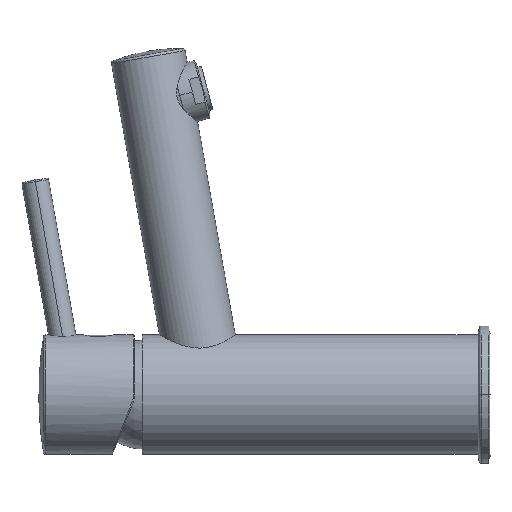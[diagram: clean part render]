
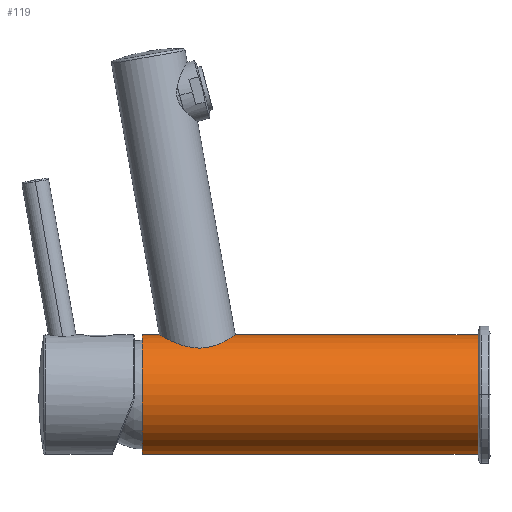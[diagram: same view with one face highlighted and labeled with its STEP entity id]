
A CAD part, left-side view. The second image highlights one B-rep face of the part: STEP entity #119.
In plain terms, the highlighted cylindrical face has radius 20 mm (diameter 40 mm), a partial arc.
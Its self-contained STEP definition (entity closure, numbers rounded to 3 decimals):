
#1=CARTESIAN_POINT('',(0.,87.,20.));
#19=CARTESIAN_POINT('',(0.,99.,20.));
#26=CARTESIAN_POINT('',(0.,99.,20.));
#27=CARTESIAN_POINT('',(-0.396,99.,20.));
#28=CARTESIAN_POINT('',(-1.173,98.923,19.977));
#29=CARTESIAN_POINT('',(-2.306,98.581,19.877));
#30=CARTESIAN_POINT('',(-3.341,98.029,19.727));
#31=CARTESIAN_POINT('',(-4.248,97.291,19.55));
#32=CARTESIAN_POINT('',(-4.996,96.391,19.37));
#33=CARTESIAN_POINT('',(-5.56,95.358,19.214));
#34=CARTESIAN_POINT('',(-5.915,94.219,19.106));
#35=CARTESIAN_POINT('',(-6.04,93.027,19.066));
#36=CARTESIAN_POINT('',(-5.926,91.836,19.102));
#37=CARTESIAN_POINT('',(-5.582,90.695,19.207));
#38=CARTESIAN_POINT('',(-5.024,89.65,19.363));
#39=CARTESIAN_POINT('',(-4.276,88.736,19.544));
#40=CARTESIAN_POINT('',(-3.365,87.986,19.723));
#41=CARTESIAN_POINT('',(-2.324,87.426,19.875));
#42=CARTESIAN_POINT('',(-1.183,87.078,19.976));
#43=CARTESIAN_POINT('',(-0.4,87.,20.));
#44=CARTESIAN_POINT('',(0.,87.,20.));
#46=DIRECTION('',(0.,1.,0.));
#47=VECTOR('',#46,87.);
#48=CARTESIAN_POINT('',(0.,0.,20.));
#49=LINE('',#48,#47);
#50=CARTESIAN_POINT('',(0.,0.,0.));
#51=DIRECTION('',(0.,-1.,0.));
#52=DIRECTION('',(0.,0.,1.));
#53=AXIS2_PLACEMENT_3D('',#50,#51,#52);
#55=DIRECTION('',(0.,1.,0.));
#56=VECTOR('',#55,112.5);
#57=CARTESIAN_POINT('',(0.,0.,-20.));
#58=LINE('',#57,#56);
#59=DIRECTION('',(0.,1.,0.));
#60=VECTOR('',#59,13.5);
#61=CARTESIAN_POINT('',(0.,99.,20.));
#62=LINE('',#61,#60);
#63=CARTESIAN_POINT('',(0.,112.5,0.));
#64=DIRECTION('',(0.,1.,0.));
#65=DIRECTION('',(0.,0.,-1.));
#66=AXIS2_PLACEMENT_3D('',#63,#64,#65);
#73=CARTESIAN_POINT('',(0.,0.,-20.));
#74=CARTESIAN_POINT('',(0.,112.5,-20.));
#75=VERTEX_POINT('',#73);
#76=VERTEX_POINT('',#74);
#77=CARTESIAN_POINT('',(0.,0.,20.));
#78=VERTEX_POINT('',#77);
#79=CARTESIAN_POINT('',(0.,112.5,20.));
#80=VERTEX_POINT('',#79);
#81=VERTEX_POINT('',#1);
#82=VERTEX_POINT('',#19);
#103=CARTESIAN_POINT('',(0.,118.125,0.));
#104=DIRECTION('',(0.,-1.,0.));
#105=DIRECTION('',(0.,0.,1.));
#106=AXIS2_PLACEMENT_3D('',#103,#104,#105);
#107=CYLINDRICAL_SURFACE('',#106,20.);
#109=ORIENTED_EDGE('',*,*,#108,.T.);
#110=ORIENTED_EDGE('',*,*,#98,.F.);
#112=ORIENTED_EDGE('',*,*,#111,.T.);
#113=ORIENTED_EDGE('',*,*,#94,.T.);
#115=ORIENTED_EDGE('',*,*,#114,.T.);
#116=ORIENTED_EDGE('',*,*,#90,.F.);
#117=EDGE_LOOP('',(#109,#110,#112,#113,#115,#116));
#118=FACE_OUTER_BOUND('',#117,.F.);
#119=ADVANCED_FACE('',(#118),#107,.T.);
#45=B_SPLINE_CURVE_WITH_KNOTS('',3,(#26,#27,#28,#29,#30,#31,#32,#33,#34,#35,#36,
#37,#38,#39,#40,#41,#42,#43,#44),.UNSPECIFIED.,.F.,.F.,(4,1,1,1,1,1,1,1,1,1,1,1,
1,1,1,1,4),(0.,0.063,0.125,0.188,0.25,0.313,0.375,0.438,
0.5,0.563,0.625,0.688,0.75,0.813,0.875,0.938,1.),
.UNSPECIFIED.);
#54=CIRCLE('',#53,20.);
#67=CIRCLE('',#66,20.);
#90=EDGE_CURVE('',#82,#80,#62,.T.);
#94=EDGE_CURVE('',#75,#76,#58,.T.);
#98=EDGE_CURVE('',#78,#81,#49,.T.);
#108=EDGE_CURVE('',#82,#81,#45,.T.);
#111=EDGE_CURVE('',#78,#75,#54,.T.);
#114=EDGE_CURVE('',#76,#80,#67,.T.);
